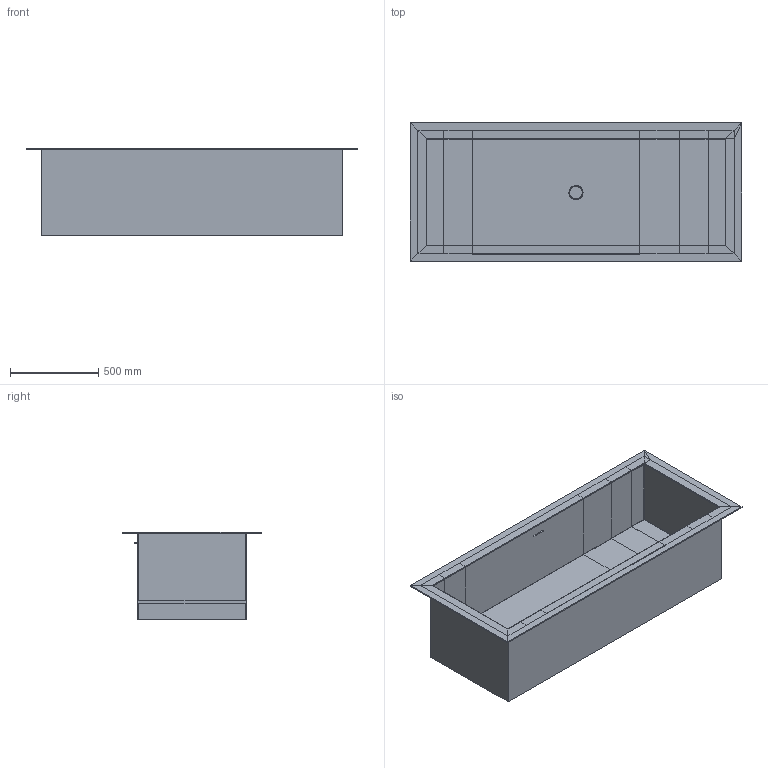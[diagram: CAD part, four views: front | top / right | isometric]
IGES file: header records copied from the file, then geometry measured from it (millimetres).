
Global section: file name: D:\Desktop\GIOVANNI\SCHEDE PRODOTTO\VASCHE\VASCHE DA INCASSO\SQUARE INCA\3D\SQUARE INCA.igs; native system: Rhinoceros ( Jan 17 2018 ); preprocessor: Trout Lake IGES 012 Jan 17 2018; date: 230526.155404; units: millimetre
Bounding box: 1878.49 x 785.64 x 499 mm (x, y, z)
Surface area: 7822150 mm2 (no closed solid volume)
Topology: 0 solids, 0 shells, 153 faces, 673 edges, 666 vertices
Faces by surface type: bspline 153
